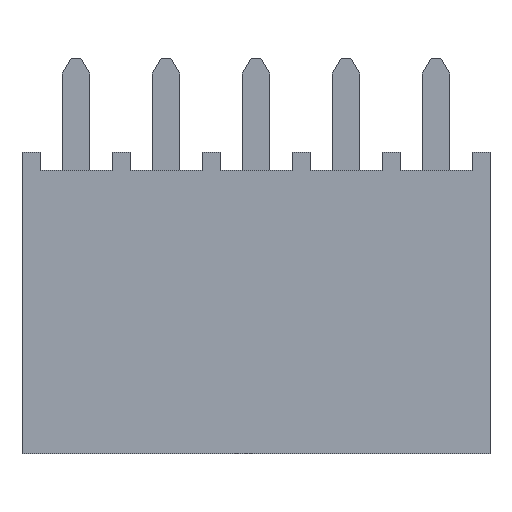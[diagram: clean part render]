
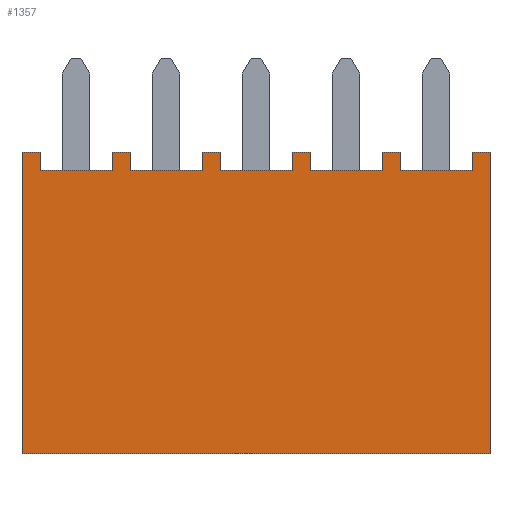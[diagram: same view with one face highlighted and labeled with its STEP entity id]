
A CAD part, front view. The second image highlights one B-rep face of the part: STEP entity #1357.
In plain terms, the highlighted planar face has unit normal (0, -1, 0).
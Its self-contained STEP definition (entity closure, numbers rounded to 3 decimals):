
#361 = EDGE_CURVE('',#362,#364,#366,.T.);
#362 = VERTEX_POINT('',#363);
#363 = CARTESIAN_POINT('',(6.604,-2.493,-10.));
#364 = VERTEX_POINT('',#365);
#365 = CARTESIAN_POINT('',(-6.604,-2.493,-10.));
#366 = LINE('',#367,#368);
#367 = CARTESIAN_POINT('',(6.604,-2.493,-10.));
#368 = VECTOR('',#369,1.);
#369 = DIRECTION('',(-1.,0.,0.));
#1357 = ADVANCED_FACE('',(#1358),#1543,.F.);
#1358 = FACE_BOUND('',#1359,.T.);
#1359 = EDGE_LOOP('',(#1360,#1370,#1378,#1386,#1394,#1402,#1410,#1418,
    #1426,#1434,#1442,#1450,#1458,#1466,#1474,#1482,#1490,#1498,#1506,
    #1514,#1522,#1528,#1529,#1537));
#1360 = ORIENTED_EDGE('',*,*,#1361,.F.);
#1361 = EDGE_CURVE('',#1362,#1364,#1366,.T.);
#1362 = VERTEX_POINT('',#1363);
#1363 = CARTESIAN_POINT('',(6.096,-2.493,-1.999));
#1364 = VERTEX_POINT('',#1365);
#1365 = CARTESIAN_POINT('',(6.096,-2.493,-1.491));
#1366 = LINE('',#1367,#1368);
#1367 = CARTESIAN_POINT('',(6.096,-2.493,-10.));
#1368 = VECTOR('',#1369,1.);
#1369 = DIRECTION('',(0.,0.,1.));
#1370 = ORIENTED_EDGE('',*,*,#1371,.F.);
#1371 = EDGE_CURVE('',#1372,#1362,#1374,.T.);
#1372 = VERTEX_POINT('',#1373);
#1373 = CARTESIAN_POINT('',(4.064,-2.493,-1.999));
#1374 = LINE('',#1375,#1376);
#1375 = CARTESIAN_POINT('',(6.604,-2.493,-1.999));
#1376 = VECTOR('',#1377,1.);
#1377 = DIRECTION('',(1.,0.,0.));
#1378 = ORIENTED_EDGE('',*,*,#1379,.F.);
#1379 = EDGE_CURVE('',#1380,#1372,#1382,.T.);
#1380 = VERTEX_POINT('',#1381);
#1381 = CARTESIAN_POINT('',(4.064,-2.493,-1.491));
#1382 = LINE('',#1383,#1384);
#1383 = CARTESIAN_POINT('',(4.064,-2.493,-10.));
#1384 = VECTOR('',#1385,1.);
#1385 = DIRECTION('',(0.,0.,-1.));
#1386 = ORIENTED_EDGE('',*,*,#1387,.T.);
#1387 = EDGE_CURVE('',#1380,#1388,#1390,.T.);
#1388 = VERTEX_POINT('',#1389);
#1389 = CARTESIAN_POINT('',(3.556,-2.493,-1.491));
#1390 = LINE('',#1391,#1392);
#1391 = CARTESIAN_POINT('',(6.604,-2.493,-1.491));
#1392 = VECTOR('',#1393,1.);
#1393 = DIRECTION('',(-1.,0.,0.));
#1394 = ORIENTED_EDGE('',*,*,#1395,.F.);
#1395 = EDGE_CURVE('',#1396,#1388,#1398,.T.);
#1396 = VERTEX_POINT('',#1397);
#1397 = CARTESIAN_POINT('',(3.556,-2.493,-1.999));
#1398 = LINE('',#1399,#1400);
#1399 = CARTESIAN_POINT('',(3.556,-2.493,-10.));
#1400 = VECTOR('',#1401,1.);
#1401 = DIRECTION('',(0.,0.,1.));
#1402 = ORIENTED_EDGE('',*,*,#1403,.F.);
#1403 = EDGE_CURVE('',#1404,#1396,#1406,.T.);
#1404 = VERTEX_POINT('',#1405);
#1405 = CARTESIAN_POINT('',(1.524,-2.493,-1.999));
#1406 = LINE('',#1407,#1408);
#1407 = CARTESIAN_POINT('',(6.604,-2.493,-1.999));
#1408 = VECTOR('',#1409,1.);
#1409 = DIRECTION('',(1.,0.,0.));
#1410 = ORIENTED_EDGE('',*,*,#1411,.F.);
#1411 = EDGE_CURVE('',#1412,#1404,#1414,.T.);
#1412 = VERTEX_POINT('',#1413);
#1413 = CARTESIAN_POINT('',(1.524,-2.493,-1.491));
#1414 = LINE('',#1415,#1416);
#1415 = CARTESIAN_POINT('',(1.524,-2.493,-10.));
#1416 = VECTOR('',#1417,1.);
#1417 = DIRECTION('',(0.,0.,-1.));
#1418 = ORIENTED_EDGE('',*,*,#1419,.T.);
#1419 = EDGE_CURVE('',#1412,#1420,#1422,.T.);
#1420 = VERTEX_POINT('',#1421);
#1421 = CARTESIAN_POINT('',(1.016,-2.493,-1.491));
#1422 = LINE('',#1423,#1424);
#1423 = CARTESIAN_POINT('',(6.604,-2.493,-1.491));
#1424 = VECTOR('',#1425,1.);
#1425 = DIRECTION('',(-1.,0.,0.));
#1426 = ORIENTED_EDGE('',*,*,#1427,.F.);
#1427 = EDGE_CURVE('',#1428,#1420,#1430,.T.);
#1428 = VERTEX_POINT('',#1429);
#1429 = CARTESIAN_POINT('',(1.016,-2.493,-1.999));
#1430 = LINE('',#1431,#1432);
#1431 = CARTESIAN_POINT('',(1.016,-2.493,-10.));
#1432 = VECTOR('',#1433,1.);
#1433 = DIRECTION('',(0.,0.,1.));
#1434 = ORIENTED_EDGE('',*,*,#1435,.F.);
#1435 = EDGE_CURVE('',#1436,#1428,#1438,.T.);
#1436 = VERTEX_POINT('',#1437);
#1437 = CARTESIAN_POINT('',(-1.016,-2.493,-1.999));
#1438 = LINE('',#1439,#1440);
#1439 = CARTESIAN_POINT('',(6.604,-2.493,-1.999));
#1440 = VECTOR('',#1441,1.);
#1441 = DIRECTION('',(1.,0.,0.));
#1442 = ORIENTED_EDGE('',*,*,#1443,.F.);
#1443 = EDGE_CURVE('',#1444,#1436,#1446,.T.);
#1444 = VERTEX_POINT('',#1445);
#1445 = CARTESIAN_POINT('',(-1.016,-2.493,-1.491));
#1446 = LINE('',#1447,#1448);
#1447 = CARTESIAN_POINT('',(-1.016,-2.493,-10.));
#1448 = VECTOR('',#1449,1.);
#1449 = DIRECTION('',(0.,0.,-1.));
#1450 = ORIENTED_EDGE('',*,*,#1451,.T.);
#1451 = EDGE_CURVE('',#1444,#1452,#1454,.T.);
#1452 = VERTEX_POINT('',#1453);
#1453 = CARTESIAN_POINT('',(-1.524,-2.493,-1.491));
#1454 = LINE('',#1455,#1456);
#1455 = CARTESIAN_POINT('',(6.604,-2.493,-1.491));
#1456 = VECTOR('',#1457,1.);
#1457 = DIRECTION('',(-1.,0.,0.));
#1458 = ORIENTED_EDGE('',*,*,#1459,.F.);
#1459 = EDGE_CURVE('',#1460,#1452,#1462,.T.);
#1460 = VERTEX_POINT('',#1461);
#1461 = CARTESIAN_POINT('',(-1.524,-2.493,-1.999));
#1462 = LINE('',#1463,#1464);
#1463 = CARTESIAN_POINT('',(-1.524,-2.493,-10.));
#1464 = VECTOR('',#1465,1.);
#1465 = DIRECTION('',(0.,0.,1.));
#1466 = ORIENTED_EDGE('',*,*,#1467,.F.);
#1467 = EDGE_CURVE('',#1468,#1460,#1470,.T.);
#1468 = VERTEX_POINT('',#1469);
#1469 = CARTESIAN_POINT('',(-3.556,-2.493,-1.999));
#1470 = LINE('',#1471,#1472);
#1471 = CARTESIAN_POINT('',(6.604,-2.493,-1.999));
#1472 = VECTOR('',#1473,1.);
#1473 = DIRECTION('',(1.,0.,0.));
#1474 = ORIENTED_EDGE('',*,*,#1475,.F.);
#1475 = EDGE_CURVE('',#1476,#1468,#1478,.T.);
#1476 = VERTEX_POINT('',#1477);
#1477 = CARTESIAN_POINT('',(-3.556,-2.493,-1.491));
#1478 = LINE('',#1479,#1480);
#1479 = CARTESIAN_POINT('',(-3.556,-2.493,-10.));
#1480 = VECTOR('',#1481,1.);
#1481 = DIRECTION('',(0.,0.,-1.));
#1482 = ORIENTED_EDGE('',*,*,#1483,.T.);
#1483 = EDGE_CURVE('',#1476,#1484,#1486,.T.);
#1484 = VERTEX_POINT('',#1485);
#1485 = CARTESIAN_POINT('',(-4.064,-2.493,-1.491));
#1486 = LINE('',#1487,#1488);
#1487 = CARTESIAN_POINT('',(6.604,-2.493,-1.491));
#1488 = VECTOR('',#1489,1.);
#1489 = DIRECTION('',(-1.,0.,0.));
#1490 = ORIENTED_EDGE('',*,*,#1491,.F.);
#1491 = EDGE_CURVE('',#1492,#1484,#1494,.T.);
#1492 = VERTEX_POINT('',#1493);
#1493 = CARTESIAN_POINT('',(-4.064,-2.493,-1.999));
#1494 = LINE('',#1495,#1496);
#1495 = CARTESIAN_POINT('',(-4.064,-2.493,-10.));
#1496 = VECTOR('',#1497,1.);
#1497 = DIRECTION('',(0.,0.,1.));
#1498 = ORIENTED_EDGE('',*,*,#1499,.F.);
#1499 = EDGE_CURVE('',#1500,#1492,#1502,.T.);
#1500 = VERTEX_POINT('',#1501);
#1501 = CARTESIAN_POINT('',(-6.096,-2.493,-1.999));
#1502 = LINE('',#1503,#1504);
#1503 = CARTESIAN_POINT('',(6.604,-2.493,-1.999));
#1504 = VECTOR('',#1505,1.);
#1505 = DIRECTION('',(1.,0.,0.));
#1506 = ORIENTED_EDGE('',*,*,#1507,.F.);
#1507 = EDGE_CURVE('',#1508,#1500,#1510,.T.);
#1508 = VERTEX_POINT('',#1509);
#1509 = CARTESIAN_POINT('',(-6.096,-2.493,-1.491));
#1510 = LINE('',#1511,#1512);
#1511 = CARTESIAN_POINT('',(-6.096,-2.493,-10.));
#1512 = VECTOR('',#1513,1.);
#1513 = DIRECTION('',(0.,0.,-1.));
#1514 = ORIENTED_EDGE('',*,*,#1515,.T.);
#1515 = EDGE_CURVE('',#1508,#1516,#1518,.T.);
#1516 = VERTEX_POINT('',#1517);
#1517 = CARTESIAN_POINT('',(-6.604,-2.493,-1.491));
#1518 = LINE('',#1519,#1520);
#1519 = CARTESIAN_POINT('',(6.604,-2.493,-1.491));
#1520 = VECTOR('',#1521,1.);
#1521 = DIRECTION('',(-1.,0.,0.));
#1522 = ORIENTED_EDGE('',*,*,#1523,.F.);
#1523 = EDGE_CURVE('',#364,#1516,#1524,.T.);
#1524 = LINE('',#1525,#1526);
#1525 = CARTESIAN_POINT('',(-6.604,-2.493,-10.));
#1526 = VECTOR('',#1527,1.);
#1527 = DIRECTION('',(0.,0.,1.));
#1528 = ORIENTED_EDGE('',*,*,#361,.F.);
#1529 = ORIENTED_EDGE('',*,*,#1530,.T.);
#1530 = EDGE_CURVE('',#362,#1531,#1533,.T.);
#1531 = VERTEX_POINT('',#1532);
#1532 = CARTESIAN_POINT('',(6.604,-2.493,-1.491));
#1533 = LINE('',#1534,#1535);
#1534 = CARTESIAN_POINT('',(6.604,-2.493,-10.));
#1535 = VECTOR('',#1536,1.);
#1536 = DIRECTION('',(0.,0.,1.));
#1537 = ORIENTED_EDGE('',*,*,#1538,.T.);
#1538 = EDGE_CURVE('',#1531,#1364,#1539,.T.);
#1539 = LINE('',#1540,#1541);
#1540 = CARTESIAN_POINT('',(6.604,-2.493,-1.491));
#1541 = VECTOR('',#1542,1.);
#1542 = DIRECTION('',(-1.,0.,0.));
#1543 = PLANE('',#1544);
#1544 = AXIS2_PLACEMENT_3D('',#1545,#1546,#1547);
#1545 = CARTESIAN_POINT('',(6.604,-2.493,-10.));
#1546 = DIRECTION('',(0.,1.,0.));
#1547 = DIRECTION('',(1.,0.,0.));
